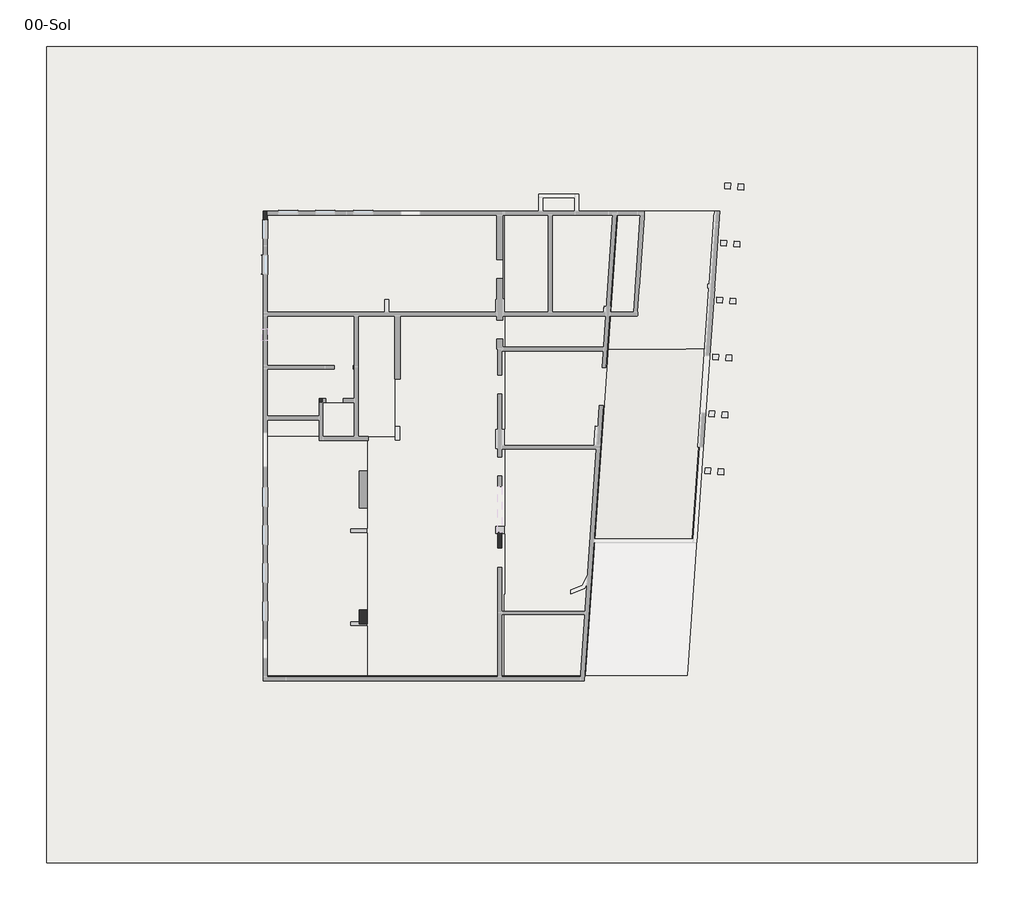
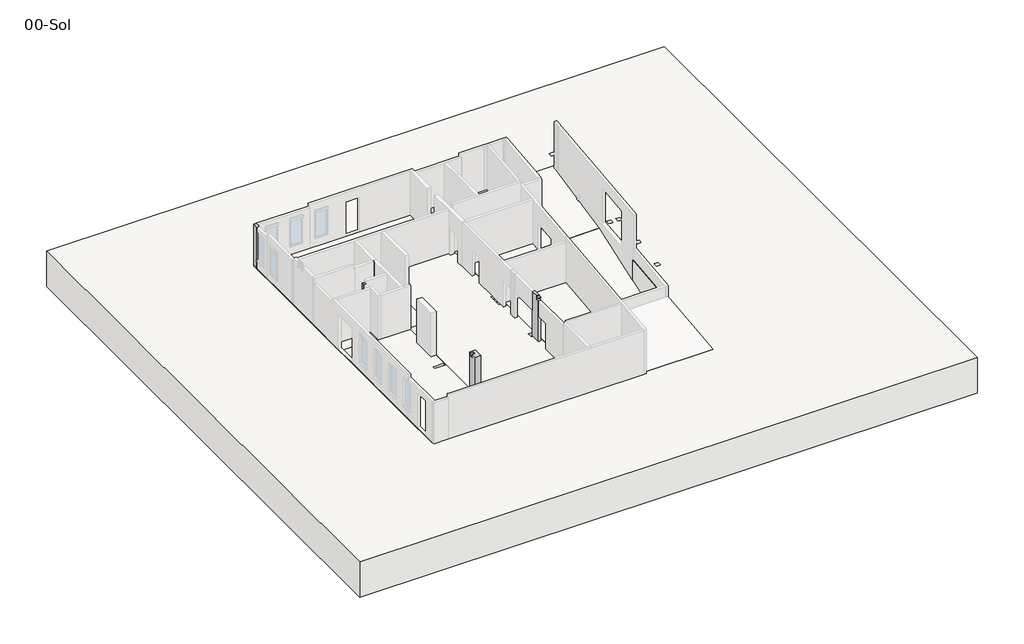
# One storey, part 3 of 4: 12 slabs, 8 columns, 8 footings.
"""IFC4 building model written with IfcOpenShell, lengths in millimetres."""

from ifc_helpers import new_model, si_unit, point, frame, frame_2d, origin, place, context, project, spatial, polyline, circle_curve, trimmed, segment, composite_curve, outline, extrude, faceted_brep, element, save
from ifc_brep_helpers import plane_surface, cylinder_surface, advanced_brep

model = new_model("IFC4")

# Units and contexts
model_context = context("Model", 3, world=origin())
ifc_project = project(units=[si_unit("LENGTHUNIT", "METRE", prefix="MILLI")], contexts=[model_context])

# Site, building, storey
site = spatial("IfcSite", under=ifc_project)
building = spatial("IfcBuilding", under=site)
storey = spatial("IfcBuildingStorey", under=building, Name="00-Sol", Elevation=0.0)

# Columns
placement = place(None, origin())
element("IfcColumn", 1, ObjectType="Poteau béton - Rectangulaire : 200x250 mm", at=placement, inside=storey, context=model_context, shape_type="Brep", body=[
    faceted_brep([(-1377.0447796, 10679.8622276, 80.0), (-1377.0447796, 10879.8622276, 80.0), (-1327.0447796, 10879.8622276, 80.0), (-1327.0447796, 10679.8622276, 80.0), (-1377.0447796, 10879.8622276, 2250.0), (-1377.0447796, 10879.8622276, 3760.0), (-1327.0447796, 10879.8622276, 3760.0), (-1377.0447796, 10679.8622276, 3760.0), (-1377.0447796, 10679.8622276, 2250.0), (-1327.0447796, 10679.8622276, 3760.0), (-1327.0447796, 10779.8622276, 3760.0)], [[[0, 1, 2, 3]], [[1, 4, 5, 6, 2]], [[7, 8, 0, 3, 9]], [[1, 0, 8, 7, 5, 4]], [[5, 7, 9, 10, 6]], [[2, 6, 10, 9, 3]]]),
])
element("IfcColumn", 2, ObjectType="Poteau béton - Rectangulaire : 200x360 mm", at=placement, inside=storey, context=model_context, shape_type="SweptSolid", body=[
    extrude(outline(polyline([(-3177.0447796, 8929.8622276), (-3177.0447796, 9129.8622276), (-2977.0447796, 9129.8622276), (-2977.0447796, 8929.8622276), (-3177.0447796, 8929.8622276)])), frame((0.0, 0.0, 80.0), z_axis=(0.0, 0.0, 1.0), x_axis=(1.0, 0.0, 0.0)), (0.0, 0.0, 1.0), 3430.0),
])
element("IfcColumn", 3, ObjectType="Poteau béton - Rectangulaire : 25x90", at=placement, inside=storey, context=model_context, shape_type="Brep", body=[
    faceted_brep([(-1537.0447796, 2289.8622276, -3690.0), (-637.0447796, 2289.8622276, -3690.0), (-637.0447796, 2039.8622276, -3690.0), (-1537.0447796, 2039.8622276, -3690.0), (-637.0447796, 2289.8622276, -3520.0), (-1537.0447796, 2289.8622276, -3520.0), (-1537.0447796, 2039.8622276, -3520.0), (-637.0447796, 2039.8622276, -3520.0)], [[[0, 1, 2, 3]], [[4, 5, 6, 7]], [[1, 0, 5, 4]], [[2, 1, 4, 7]], [[3, 2, 7, 6]], [[0, 3, 6, 5]]]),
    faceted_brep([(-1537.0447796, 2289.8622276, -150.0), (-637.0447796, 2289.8622276, -150.0), (-637.0447796, 2289.8622276, -190.0), (-637.0447796, 2289.8622276, -770.0), (-637.0447796, 2289.8622276, -3390.0), (-1537.0447796, 2289.8622276, -3390.0), (-1537.0447796, 2289.8622276, -770.0), (-637.0447796, 2209.8622276, -150.0), (-637.0447796, 2039.8622276, -150.0), (-637.0447796, 2039.8622276, -190.0), (-637.0447796, 2039.8622276, -770.0), (-637.0447796, 2039.8622276, -3390.0), (-1537.0447796, 2039.8622276, -150.0), (-1537.0447796, 2039.8622276, -770.0), (-1537.0447796, 2039.8622276, -3390.0), (-1537.0447796, 2209.8622276, -150.0)], [[[0, 1, 2, 3, 4, 5, 6]], [[1, 7, 8, 9, 10, 11, 4, 3, 2]], [[8, 12, 13, 14, 11, 10, 9]], [[12, 15, 0, 6, 5, 14, 13]], [[1, 0, 15, 12, 8, 7]], [[5, 4, 11, 14]]]),
])
element("IfcColumn", 4, ObjectType="Poteau béton - Rectangulaire : 25x90", at=placement, inside=storey, context=model_context, shape_type="Brep", body=[
    faceted_brep([(-1537.0447796, -2600.1377724, -3690.0), (-637.0447796, -2600.1377724, -3690.0), (-637.0447796, -2850.1377724, -3690.0), (-1537.0447796, -2850.1377724, -3690.0), (-637.0447796, -2600.1377724, -3520.0), (-1537.0447796, -2600.1377724, -3520.0), (-1537.0447796, -2850.1377724, -3520.0), (-637.0447796, -2850.1377724, -3520.0)], [[[0, 1, 2, 3]], [[4, 5, 6, 7]], [[1, 0, 5, 4]], [[2, 1, 4, 7]], [[3, 2, 7, 6]], [[0, 3, 6, 5]]]),
    faceted_brep([(-1537.0447796, -2600.1377724, -150.0), (-637.0447796, -2600.1377724, -150.0), (-637.0447796, -2600.1377724, -190.0), (-637.0447796, -2600.1377724, -770.0), (-637.0447796, -2600.1377724, -3390.0), (-1537.0447796, -2600.1377724, -3390.0), (-1537.0447796, -2600.1377724, -770.0), (-637.0447796, -2750.1377724, -150.0), (-637.0447796, -2850.1377724, -150.0), (-637.0447796, -2850.1377724, -190.0), (-637.0447796, -2850.1377724, -670.0), (-637.0447796, -2850.1377724, -3390.0), (-1537.0447796, -2850.1377724, -150.0), (-1537.0447796, -2850.1377724, -670.0), (-1537.0447796, -2850.1377724, -3390.0), (-1537.0447796, -2750.1377724, -150.0)], [[[0, 1, 2, 3, 4, 5, 6]], [[1, 7, 8, 9, 10, 11, 4, 3, 2]], [[8, 12, 13, 14, 11, 10, 9]], [[12, 15, 0, 6, 5, 14, 13]], [[1, 0, 15, 12, 8, 7]], [[5, 4, 11, 14]]]),
])
element("IfcColumn", 5, ObjectType="Poteau béton - Rectangulaire : 40x50", at=placement, inside=storey, context=model_context, shape_type="Brep", body=[
    faceted_brep([(6082.9552204, 2409.8622276, -3690.0), (6582.9552204, 2409.8622276, -3690.0), (6582.9552204, 2009.8622276, -3690.0), (6082.9552204, 2009.8622276, -3690.0), (6582.9552204, 2409.8622276, -3520.0), (6082.9552204, 2409.8622276, -3520.0), (6082.9552204, 2009.8622276, -3520.0), (6582.9552204, 2009.8622276, -3520.0)], [[[0, 1, 2, 3]], [[4, 5, 6, 7]], [[1, 0, 5, 4]], [[2, 1, 4, 7]], [[3, 2, 7, 6]], [[0, 3, 6, 5]]]),
    faceted_brep([(6082.9552204, 2409.8622276, -720.0), (6582.9552204, 2409.8622276, -720.0), (6582.9552204, 2409.8622276, -3390.0), (6082.9552204, 2409.8622276, -3390.0), (6582.9552204, 2247.1622276, -720.0), (6582.9552204, 2009.8622276, -720.0), (6582.9552204, 2009.8622276, -3390.0), (6082.9552204, 2009.8622276, -720.0), (6082.9552204, 2009.8622276, -3390.0), (6082.9552204, 2247.1622276, -720.0)], [[[0, 1, 2, 3]], [[1, 4, 5, 6, 2]], [[5, 7, 8, 6]], [[7, 9, 0, 3, 8]], [[1, 0, 9, 7, 5, 4]], [[3, 2, 6, 8]]]),
])
element("IfcColumn", 6, ObjectType="Poteau béton - Rectangulaire : 440x220mm", at=placement, inside=storey, context=model_context, shape_type="Brep", body=[
    faceted_brep([(-5907.0447796, 18999.8622276, 80.0), (-5907.0447796, 18799.8622276, 80.0), (-5907.0447796, 18559.8622276, 80.0), (-6107.0447796, 18559.8622276, 80.0), (-6107.0447796, 18999.8622276, 80.0), (-5907.0447796, 18999.8622276, 3510.0), (-5907.0447796, 18799.8622276, 3510.0), (-5907.0447796, 18559.8622276, 3510.0), (-5907.0447796, 18559.8622276, 3150.0), (-5907.0447796, 18559.8622276, 750.0), (-6107.0447796, 18559.8622276, 3510.0), (-6107.0447796, 18559.8622276, 3150.0), (-6107.0447796, 18559.8622276, 750.0), (-6107.0447796, 18999.8622276, 3510.0)], [[[0, 1, 2, 3, 4]], [[5, 6, 7, 8, 9, 2, 1, 0]], [[7, 10, 11, 12, 3, 2, 9, 8]], [[10, 13, 4, 3, 12, 11]], [[13, 5, 0, 4]], [[5, 13, 10, 7, 6]]]),
])
element("IfcColumn", 7, ObjectType="Poteau béton - Rectangulaire : 750X430mm", at=placement, inside=storey, context=model_context, shape_type="Brep", body=[
    faceted_brep([(-642.0447796, -2000.1377724, 80.0), (-642.0447796, -2750.1377724, 80.0), (-1072.0447796, -2750.1377724, 80.0), (-1072.0447796, -2000.1377724, 80.0), (-642.0447796, -2000.1377724, 3760.0), (-642.0447796, -2150.1377724, 3760.0), (-642.0447796, -2750.1377724, 3760.0), (-642.0447796, -2750.1377724, 3440.0), (-642.0447796, -2750.1377724, 3190.0), (-1072.0447796, -2750.1377724, 3760.0), (-1072.0447796, -2750.1377724, 3440.0), (-1072.0447796, -2340.1377724, 3760.0), (-1072.0447796, -2340.1377724, 3510.0), (-1072.0447796, -2140.1377724, 3510.0), (-1072.0447796, -2140.1377724, 3760.0), (-1072.0447796, -2000.1377724, 3760.0), (-887.0447796, -2140.1377724, 3760.0), (-887.0447796, -2340.1377724, 3760.0), (-887.0447796, -2140.1377724, 3510.0), (-887.0447796, -2340.1377724, 3510.0)], [[[0, 1, 2, 3]], [[1, 0, 4, 5, 6, 7, 8]], [[2, 1, 8, 7, 6, 9, 10]], [[3, 2, 10, 9, 11, 12, 13, 14, 15]], [[0, 3, 15, 4]], [[6, 5, 4, 15, 14, 16, 17, 11, 9]], [[18, 16, 14, 13]], [[19, 12, 11, 17]], [[19, 18, 13, 12]], [[18, 19, 17, 16]]]),
])
element("IfcColumn", 8, ObjectType="Poteau béton - Rectangulaire : 810x200mm", at=placement, inside=storey, context=model_context, shape_type="Brep", body=[
    faceted_brep([(6432.9552204, 2069.8622276, 80.0), (6432.9552204, 1259.8622276, 80.0), (6232.9552204, 1259.8622276, 80.0), (6232.9552204, 2069.8622276, 80.0), (6432.9552204, 2069.8622276, 2250.0), (6432.9552204, 2069.8622276, 3810.0), (6432.9552204, 1469.8622276, 3810.0), (6432.9552204, 1469.8622276, 3760.0), (6432.9552204, 1259.8622276, 3760.0), (6432.9552204, 1259.8622276, 3690.0), (6432.9552204, 1469.8622276, 3690.0), (6432.9552204, 1469.8622276, 3510.0), (6432.9552204, 1259.8622276, 3510.0), (6432.9552204, 1259.8622276, 2250.0), (6232.9552204, 1259.8622276, 3690.0), (6232.9552204, 1259.8622276, 3760.0), (6232.9552204, 2069.8622276, 3810.0), (6232.9552204, 2069.8622276, 2250.0), (6232.9552204, 1259.8622276, 2250.0), (6232.9552204, 1259.8622276, 3510.0), (6232.9552204, 1469.8622276, 3510.0), (6232.9552204, 1469.8622276, 3560.0), (6232.9552204, 1469.8622276, 3690.0), (6232.9552204, 1469.8622276, 3760.0), (6232.9552204, 1469.8622276, 3810.0)], [[[0, 1, 2, 3]], [[1, 0, 4, 5, 6, 7, 8, 9, 10, 11, 12, 13]], [[14, 9, 8, 15]], [[16, 17, 3, 2, 18, 19, 20, 21, 22, 14, 15, 23, 24]], [[16, 5, 4, 0, 3, 17]], [[5, 16, 24, 6]], [[11, 20, 19, 12]], [[22, 10, 9, 14]], [[20, 11, 10, 22, 21]], [[2, 1, 13, 12, 19, 18]], [[7, 23, 15, 8]], [[23, 7, 6, 24]]]),
])

# Footings
element("IfcFooting", 9, ObjectType="SF 100x40ht", at=placement, inside=storey, context=model_context, shape_type="SweptSolid", body=[
    extrude(outline(polyline([(-5127.0447796, 10279.8622276), (-5127.0447796, 11279.8622276), (97.9552204, 11279.8622276), (97.9552204, 10279.8622276), (-5127.0447796, 10279.8622276)])), frame((0.0, 0.0, -4090.0), z_axis=(0.0, 0.0, 1.0), x_axis=(1.0, 0.0, 0.0)), (0.0, 0.0, 1.0), 400.0),
])
element("IfcFooting", 10, ObjectType="SF 100x40ht", at=placement, inside=storey, context=model_context, shape_type="SweptSolid", body=[
    extrude(outline(polyline([(-3177.0447796, 7529.8622276), (-3177.0447796, 6529.8622276), (-5127.0447796, 6529.8622276), (-5127.0447796, 7529.8622276), (-3177.0447796, 7529.8622276)])), frame((0.0, 0.0, -4090.0), z_axis=(0.0, 0.0, 1.0), x_axis=(1.0, 0.0, 0.0)), (0.0, 0.0, 1.0), 400.0),
])
element("IfcFooting", 11, ObjectType="SF 100x70ht", at=placement, inside=storey, context=model_context, shape_type="SweptSolid", body=[
    extrude(outline(polyline([(5232.9552204, -1560.1377724), (5232.9552204, -560.1377724), (10072.9552204, -560.1377724), (10072.9552204, -1560.1377724), (5232.9552204, -1560.1377724)])), frame((0.0, 0.0, -4390.0), z_axis=(0.0, 0.0, 1.0), x_axis=(1.0, 0.0, 0.0)), (0.0, 0.0, 1.0), 700.0),
])
element("IfcFooting", 12, ObjectType="SF 170x40", at=placement, inside=storey, context=model_context, shape_type="SweptSolid", body=[
    extrude(outline(polyline([(-567.0447796, 14429.8622276), (-567.0447796, 12729.8622276), (-5127.0447796, 12729.8622276), (-5127.0447796, 14429.8622276), (-567.0447796, 14429.8622276)])), frame((0.0, 0.0, -4090.0), z_axis=(0.0, 0.0, 1.0), x_axis=(1.0, 0.0, 0.0)), (0.0, 0.0, 1.0), 400.0),
])
element("IfcFooting", 13, ObjectType="SF 70x40ht", at=placement, inside=storey, context=model_context, shape_type="SweptSolid", body=[
    extrude(outline(composite_curve([segment(trimmed(circle_curve(frame_2d((10072.9552204, -69.9094928)), 490.2282796), [point((10072.9552204, -560.1377724))], [point((10562.0017591, -103.9278577))], True, "CARTESIAN"), True, "CONTINUOUS"), segment(polyline([(10562.0017591, -103.9278577), (11559.5911659, -173.3207637)]), True, "CONTINUOUS"), segment(trimmed(circle_curve(frame_2d((10072.9552204, -69.9094928)), 1490.2282796), [point((11559.5911659, -173.3207637))], [point((10072.9552204, -1560.1377724))], False, "CARTESIAN"), True, "CONTINUOUS"), segment(polyline([(10072.9552204, -1560.1377724), (10072.9552204, -560.1377724)]), True, "CONTINUOUS")], self_intersect=False)), frame((0.0, 0.0, -4390.0), z_axis=(0.0, 0.0, 1.0), x_axis=(1.0, 0.0, 0.0)), (0.0, 0.0, 1.0), 700.0),
])
element("IfcFooting", 14, ObjectType="SF1 85 x 40 cm", at=placement, inside=storey, context=model_context, shape_type="Brep", body=[
    faceted_brep([(16210.7902416, -5440.1377724, -3690.0), (15624.234943, -4510.1377724, -3690.0), (-5127.0447796, -4510.1377724, -3690.0), (-5127.0447796, -5440.1377724, -3690.0), (15624.234943, -4510.1377724, -4090.0), (-797.0447796, -4510.1377724, -4090.0), (-1097.0447796, -4510.1377724, -4090.0), (-5127.0447796, -4510.1377724, -4090.0), (16210.7902416, -5440.1377724, -4090.0), (-5127.0447796, -5440.1377724, -4090.0)], [[[0, 1, 2, 3]], [[1, 4, 5, 6, 7, 2]], [[4, 8, 9, 7, 6, 5]], [[8, 0, 3, 9]], [[3, 2, 7, 9]], [[1, 0, 8, 4]]]),
])
element("IfcFooting", 15, ObjectType="SF2 90 x 40 cm", at=placement, inside=storey, context=model_context, shape_type="Brep", body=[
    faceted_brep([(-6107.0447796, 18069.8622276, -3690.0), (-6107.0447796, -5440.1377724, -3690.0), (-5127.0447796, -5440.1377724, -3690.0), (-5127.0447796, -4510.1377724, -3690.0), (-5127.0447796, 6529.8622276, -3690.0), (-5127.0447796, 7529.8622276, -3690.0), (-5127.0447796, 10279.8622276, -3690.0), (-5127.0447796, 11279.8622276, -3690.0), (-5127.0447796, 12729.8622276, -3690.0), (-5127.0447796, 14429.8622276, -3690.0), (-5127.0447796, 18069.8622276, -3690.0), (-5127.0447796, 18069.8622276, -4090.0), (-5127.0447796, -5440.1377724, -4090.0), (-5127.0447796, -4510.1377724, -4090.0), (-5127.0447796, -2875.1377724, -4090.0), (-5127.0447796, -2575.1377724, -4090.0), (-5127.0447796, 2024.8622276, -4090.0), (-5127.0447796, 2324.8622276, -4090.0), (-5127.0447796, 6529.8622276, -4090.0), (-5127.0447796, 7529.8622276, -4090.0), (-5127.0447796, 10279.8622276, -4090.0), (-5127.0447796, 11279.8622276, -4090.0), (-5127.0447796, 12729.8622276, -4090.0), (-5127.0447796, 14429.8622276, -4090.0), (-6107.0447796, 18069.8622276, -4090.0), (-6107.0447796, -5440.1377724, -4090.0)], [[[0, 1, 2, 3, 4, 5, 6, 7, 8, 9, 10]], [[11, 10, 9, 8, 7, 6, 5, 4, 3, 2, 12, 13, 14, 15, 16, 17, 18, 19, 20, 21, 22, 23]], [[24, 11, 23, 22, 21, 20, 19, 18, 17, 16, 15, 14, 13, 12, 25]], [[0, 24, 25, 1]], [[2, 1, 25, 12]], [[0, 10, 11, 24]]]),
])
element("IfcFooting", 16, ObjectType="SF6 60 x 40 cm", at=placement, inside=storey, context=model_context, shape_type="Brep", body=[
    faceted_brep([(16702.6850626, 1594.2858962, -3690.0), (16702.6850626, 1594.2858962, -4090.0), (16104.1466325, 1636.1397805, -4090.0), (16054.26843, 1639.6276041, -4090.0), (16054.26843, 1639.6276041, -3690.0), (16104.1466325, 1636.1397805, -3690.0), (16210.7902416, -5440.1377724, -3690.0), (15624.234943, -4510.1377724, -3690.0), (16210.7902416, -5440.1377724, -4090.0), (15624.234943, -4510.1377724, -4090.0)], [[[0, 1, 2, 3, 4, 5]], [[6, 0, 5, 4, 7]], [[1, 0, 6, 8]], [[3, 2, 1, 8, 9]], [[4, 3, 9, 7]], [[6, 7, 9, 8]]]),
])

# Slabs
element("IfcSlab", 17, ObjectType="Plancher Coulé en place 23 cm", at=placement, inside=storey, context=model_context, shape_type="Brep", body=[
    faceted_brep([(-6107.0447796, -2240.1377724, -150.0), (-6107.0447796, 7129.8622276, -150.0), (-1537.0447796, 7129.8622276, -150.0), (-1227.0447796, 7129.8622276, -150.0), (-637.0447796, 7129.8622276, -150.0), (-637.0447796, 6929.8622276, -150.0), (-637.0447796, 2289.8622276, -150.0), (-1537.0447796, 2289.8622276, -150.0), (-1537.0447796, 2209.8622276, -150.0), (-1537.0447796, 2039.8622276, -150.0), (-637.0447796, 2039.8622276, -150.0), (-637.0447796, -2600.1377724, -150.0), (-1537.0447796, -2600.1377724, -150.0), (-1537.0447796, -2750.1377724, -150.0), (-1537.0447796, -2850.1377724, -150.0), (-637.0447796, -2850.1377724, -150.0), (-637.0447796, -5160.1377724, -150.0), (-637.0447796, -5440.1377724, -150.0), (-6107.0447796, -5440.1377724, -150.0), (-6107.0447796, 7129.8622276, 80.0), (-6107.0447796, -2240.1377724, 80.0), (-6107.0447796, -5440.1377724, 80.0), (-5907.0447796, -5440.1377724, 80.0), (-637.0447796, -5440.1377724, 80.0), (-637.0447796, -2850.1377724, 80.0), (-1537.0447796, -2850.1377724, 80.0), (-1537.0447796, -2750.1377724, 80.0), (-1537.0447796, -2600.1377724, 80.0), (-637.0447796, -2600.1377724, 80.0), (-637.0447796, 2039.8622276, 80.0), (-1537.0447796, 2039.8622276, 80.0), (-1537.0447796, 2209.8622276, 80.0), (-1537.0447796, 2289.8622276, 80.0), (-637.0447796, 2289.8622276, 80.0), (-637.0447796, 7129.8622276, 80.0)], [[[0, 1, 2, 3, 4, 5, 6, 7, 8, 9, 10, 11, 12, 13, 14, 15, 16, 17, 18]], [[19, 20, 21, 22, 23, 24, 25, 26, 27, 28, 29, 30, 31, 32, 33, 34]], [[1, 0, 20, 19]], [[4, 3, 2, 1, 19, 34]], [[4, 34, 33, 6, 5]], [[23, 17, 16, 15, 24]], [[11, 10, 29, 28]], [[18, 17, 23, 22, 21]], [[0, 18, 21, 20]], [[32, 7, 6, 33]], [[7, 32, 31, 30, 9, 8]], [[9, 30, 29, 10]], [[27, 12, 11, 28]], [[12, 27, 26, 25, 14, 13]], [[14, 25, 24, 15]]]),
])
element("IfcSlab", 18, ObjectType="Plancher Coulé en place 27", at=placement, inside=storey, context=model_context, shape_type="Brep", body=[
    faceted_brep([(6532.9552204, -5440.1377724, -190.0), (-637.0447796, -5440.1377724, -190.0), (-637.0447796, -2850.1377724, -190.0), (-637.0447796, -2600.1377724, -190.0), (-637.0447796, 2039.8622276, -190.0), (-637.0447796, 2289.8622276, -190.0), (-637.0447796, 7129.8622276, -190.0), (812.9552204, 7129.8622276, -190.0), (812.9552204, 6929.8622276, -190.0), (1082.9552204, 6929.8622276, -190.0), (1082.9552204, 7679.8622276, -190.0), (812.9552204, 7679.8622276, -190.0), (812.9552204, 13479.8622276, -190.0), (507.9552204, 13479.8622276, -190.0), (507.9552204, 14379.8622276, -190.0), (257.9552204, 14379.8622276, -190.0), (257.9552204, 13479.8622276, -190.0), (255.2552204, 13479.8622276, -190.0), (-6107.0447796, 13479.8622276, -190.0), (-6107.0447796, 18999.8622276, -190.0), (6482.9552204, 18999.8622276, -190.0), (6482.9552204, 14379.8622276, -190.0), (6182.9552204, 14379.8622276, -190.0), (6082.9552204, 14379.8622276, -190.0), (6082.9552204, 13479.8622276, -190.0), (6580.6552204, 13479.8622276, -190.0), (6582.9552204, 13479.8622276, -190.0), (6582.9552204, 13439.8622276, -190.0), (6582.9552204, 7529.8622276, -190.0), (6082.9552204, 7529.8622276, -190.0), (6082.9552204, 6459.8622276, -190.0), (6582.9552204, 6459.8622276, -190.0), (6582.9552204, 2409.8622276, -190.0), (6082.9552204, 2409.8622276, -190.0), (6082.9552204, 2009.8622276, -190.0), (6582.9552204, 2009.8622276, -190.0), (6582.9552204, -960.1377724, -190.0), (6582.9552204, -1160.1377724, -190.0), (6532.9552204, -1160.1377724, -190.0), (6532.9552204, -5160.1377724, -190.0), (-637.0447796, -5440.1377724, 80.0), (6232.9552204, -5440.1377724, 80.0), (6432.9552204, -5440.1377724, 80.0), (6532.9552204, -5440.1377724, 80.0), (6532.9552204, -1160.1377724, 80.0), (6582.9552204, -1160.1377724, 80.0), (6582.9552204, 2009.8622276, 80.0), (6082.9552204, 2009.8622276, 80.0), (6082.9552204, 2247.1622276, 80.0), (6082.9552204, 2409.8622276, 80.0), (6582.9552204, 2409.8622276, 80.0), (6582.9552204, 6459.8622276, 80.0), (6082.9552204, 6459.8622276, 80.0), (6082.9552204, 6979.8622276, 80.0), (6082.9552204, 7529.8622276, 80.0), (6582.9552204, 7529.8622276, 80.0), (6582.9552204, 13439.8622276, 80.0), (6582.9552204, 13479.8622276, 80.0), (6580.6552204, 13479.8622276, 80.0), (6082.9552204, 13479.8622276, 80.0), (6082.9552204, 14379.8622276, 80.0), (6482.9552204, 14379.8622276, 80.0), (6482.9552204, 18999.8622276, 80.0), (-5907.0447796, 18999.8622276, 80.0), (-6107.0447796, 18999.8622276, 80.0), (-6107.0447796, 18559.8622276, 80.0), (-6107.0447796, 13479.8622276, 80.0), (257.9552204, 13479.8622276, 80.0), (257.9552204, 14379.8622276, 80.0), (507.9552204, 14379.8622276, 80.0), (507.9552204, 13479.8622276, 80.0), (812.9552204, 13479.8622276, 80.0), (812.9552204, 7679.8622276, 80.0), (1082.9552204, 7679.8622276, 80.0), (1082.9552204, 6929.8622276, 80.0), (812.9552204, 6929.8622276, 80.0), (812.9552204, 7129.8622276, 80.0), (-637.0447796, 7129.8622276, 80.0), (-637.0447796, 2289.8622276, 80.0), (-637.0447796, 2209.8622276, 80.0), (-637.0447796, 2039.8622276, 80.0), (-637.0447796, -2600.1377724, 80.0), (-637.0447796, -2750.1377724, 80.0), (-637.0447796, -2850.1377724, 80.0), (812.9552204, 7679.8622276, -150.0), (1082.9552204, 7679.8622276, -150.0), (812.9552204, 6929.8622276, -150.0), (1082.9552204, 6929.8622276, -150.0)], [[[0, 1, 2, 3, 4, 5, 6, 7, 8, 9, 10, 11, 12, 13, 14, 15, 16, 17, 18, 19, 20, 21, 22, 23, 24, 25, 26, 27, 28, 29, 30, 31, 32, 33, 34, 35, 36, 37, 38, 39]], [[40, 41, 42, 43, 44, 45, 46, 47, 48, 49, 50, 51, 52, 53, 54, 55, 56, 57, 58, 59, 60, 61, 62, 63, 64, 65, 66, 67, 68, 69, 70, 71, 72, 73, 74, 75, 76, 77, 78, 79, 80, 81, 82, 83]], [[1, 0, 43, 42, 41, 40]], [[1, 40, 83, 82, 81, 80, 79, 78, 77, 6, 5, 4, 3, 2]], [[7, 6, 77, 76]], [[71, 12, 11, 84, 72]], [[12, 71, 70, 13]], [[66, 18, 17, 16, 67]], [[19, 18, 66, 65, 64]], [[20, 19, 64, 63, 62]], [[20, 62, 61, 21]], [[24, 59, 58, 57, 26, 25]], [[27, 26, 57, 56]], [[27, 56, 55, 28]], [[45, 37, 36, 35, 46]], [[32, 31, 51, 50]], [[38, 37, 45, 44]], [[0, 39, 38, 44, 43]], [[14, 69, 68, 15]], [[15, 68, 67, 16]], [[69, 14, 13, 70]], [[60, 23, 22, 21, 61]], [[23, 60, 59, 24]], [[54, 29, 28, 55]], [[29, 54, 53, 52, 30]], [[30, 52, 51, 31]], [[49, 33, 32, 50]], [[33, 49, 48, 47, 34]], [[34, 47, 46, 35]], [[10, 85, 73, 72, 84, 11]], [[75, 86, 8, 7, 76]], [[8, 86, 75, 74, 87, 9]], [[73, 85, 10, 9, 87, 74]]]),
])
element("IfcSlab", 19, ObjectType="Plancher Coulé en place 23 cm", at=placement, inside=storey, context=model_context, shape_type="SweptSolid", body=[
    extrude(outline(polyline([(812.9552204, 13679.8622276), (812.9552204, 7129.8622276), (-1327.0447796, 7129.8622276), (-1327.0447796, 8929.8622276), (-2977.0447796, 8929.8622276), (-2977.0447796, 7129.8622276), (-3177.0447796, 7129.8622276), (-6107.0447796, 7129.8622276), (-6107.0447796, 13679.8622276), (-6007.0447796, 13679.8622276), (257.9552204, 13679.8622276), (257.9552204, 13479.8622276), (507.9552204, 13479.8622276), (507.9552204, 13679.8622276), (812.9552204, 13679.8622276)])), frame((0.0, 0.0, -150.0), z_axis=(0.0, 0.0, 1.0), x_axis=(1.0, 0.0, 0.0)), (0.0, 0.0, 1.0), 230.0),
])
element("IfcSlab", 20, ObjectType="Plancher Coulé en place 23 cm", at=placement, inside=storey, context=model_context, shape_type="Brep", body=[
    faceted_brep([(6582.9552204, 18999.8622276, -150.0), (12542.9552204, 18999.8622276, -150.0), (10833.9216137, -5440.4570037, -150.0), (10805.6552204, -5440.4570037, -150.0), (6533.9216137, -5440.4570037, -150.0), (6533.9216137, -5440.1377724, -150.0), (6533.9216137, -1160.1377724, -150.0), (6582.9552204, -1160.1377724, -150.0), (6582.9552204, 1059.5429963, -150.0), (6582.9552204, 2009.8622276, -150.0), (6582.9552204, 2409.8622276, -150.0), (6582.9552204, 6459.8622276, -150.0), (6582.9552204, 7529.8622276, -150.0), (6582.9552204, 11729.8622276, -150.0), (6582.9552204, 13479.8622276, -150.0), (6582.9552204, 13579.8622276, -150.0), (6582.9552204, 13879.8622276, -150.0), (6582.9552204, 14379.8622276, -150.0), (12169.0026566, 13962.9716739, -150.0), (11824.6797624, 13987.0490762, -150.0), (11817.1845278, 13879.8622276, -150.0), (11803.6869502, 13686.837875, -150.0), (11789.8015255, 13488.267051, -150.0), (11810.239695, 13486.837875, -150.0), (12109.9423399, 13465.8806245, -150.0), (12134.1244197, 13464.1896488, -150.0), (11703.6160138, 7655.1434441, -150.0), (11354.4685962, 7679.5582099, -150.0), (11353.5032221, 7665.752716, -150.0), (11270.7608333, 6482.4814291, -150.0), (11620.3445267, 6458.0361559, -150.0), (11702.6556712, 7641.3376002, -150.0), (12542.9552204, 18999.8622276, 80.0), (12042.9552204, 18999.8622276, 80.0), (6582.9552204, 18999.8622276, 80.0), (6582.9552204, 14379.8622276, 80.0), (6582.9552204, 13879.8622276, 80.0), (6582.9552204, 13579.8622276, 80.0), (6582.9552204, 13479.8622276, 80.0), (6582.9552204, 11729.8622276, 80.0), (6582.9552204, 7529.8622276, 80.0), (6582.9552204, 6979.8622276, 80.0), (6582.9552204, 6459.8622276, 80.0), (6582.9552204, 2409.8622276, 80.0), (6582.9552204, 2247.1622276, 80.0), (6582.9552204, 2009.8622276, 80.0), (6582.9552204, 1059.5429963, 80.0), (6582.9552204, -1160.1377724, 80.0), (6533.9216137, -1160.1377724, 80.0), (6533.9216137, -5440.1377724, 80.0), (6533.9216137, -5440.4570037, 80.0), (10587.3940444, -5440.4570037, 80.0), (10787.882424, -5440.4570037, 80.0), (10805.6552204, -5440.4570037, 80.0), (10833.9216137, -5440.4570037, 80.0), (11824.6797624, 13987.0490762, 80.0), (12169.0026566, 13962.9716739, 80.0), (12134.1244197, 13464.1896488, 80.0), (12109.9423399, 13465.8806245, 80.0), (11810.239695, 13486.837875, 80.0), (11789.8015255, 13488.267051, 80.0), (11803.6869502, 13686.837875, 80.0), (11817.1845278, 13879.8622276, 80.0), (11354.4685962, 7679.5582099, 80.0), (11703.6160138, 7655.1434441, 80.0), (11702.6556712, 7641.3376002, 80.0), (11620.3445267, 6458.0361559, 80.0), (11270.7608333, 6482.4814291, 80.0), (11353.5032221, 7665.752716, 80.0)], [[[0, 1, 2, 3, 4, 5, 6, 7, 8, 9, 10, 11, 12, 13, 14, 15, 16, 17], [18, 19, 20, 21, 22, 23, 24, 25], [26, 27, 28, 29, 30, 31]], [[32, 33, 34, 35, 36, 37, 38, 39, 40, 41, 42, 43, 44, 45, 46, 47, 48, 49, 50, 51, 52, 53, 54], [55, 56, 57, 58, 59, 60, 61, 62], [63, 64, 65, 66, 67, 68]], [[34, 0, 17, 16, 15, 14, 13, 39, 38, 37, 36, 35]], [[1, 0, 34, 33, 32]], [[2, 1, 32, 54]], [[4, 3, 2, 54, 53, 52, 51, 50]], [[6, 5, 4, 50, 49, 48]], [[7, 6, 48, 47]], [[8, 7, 47, 46]], [[8, 46, 45, 44, 43, 42, 41, 40, 39, 13, 12, 11, 10, 9]], [[18, 56, 55, 19]], [[19, 55, 62, 61, 60, 22, 21, 20]], [[22, 60, 59, 58, 57, 25, 24, 23]], [[56, 18, 25, 57]], [[26, 64, 63, 27]], [[27, 63, 68, 67, 29, 28]], [[29, 67, 66, 30]], [[64, 26, 31, 30, 66, 65]]]),
])
element("IfcSlab", 21, ObjectType="Dallage 13 cm", at=placement, inside=storey, context=model_context, shape_type="AdvancedBrep", body=[
    advanced_brep(
    [(17599.4894487, 18719.8622276, -3520.0), (17349.6392468, 15146.837875, -3520.0), (17336.8332423, 14963.7034783, -3520.0), (17335.6538844, 14946.837875, -3520.0), (16757.5706329, 6679.8622276, -3520.0), (11635.4177076, 6679.8622276, -3520.0), (11434.929328, 6679.8622276, -3520.0), (11420.3954353, 6472.0178785, -3520.0), (10956.9583786, -155.4408, -3520.0), (10094.0265244, -960.1377724, -3520.0), (5232.9552204, -960.1377724, -3520.0), (5232.9552204, -5160.1377724, -3520.0), (-5827.0447796, -5160.1377724, -3520.0), (-5827.0447796, 18719.8622276, -3520.0), (507.9552204, 14379.8622276, -3520.0), (257.9552204, 14379.8622276, -3520.0), (257.9552204, 13479.8622276, -3520.0), (507.9552204, 13479.8622276, -3520.0), (-2977.0447796, 7129.8622276, -3520.0), (-1327.0447796, 7129.8622276, -3520.0), (-1327.0447796, 8929.8622276, -3520.0), (-2977.0447796, 8929.8622276, -3520.0), (16757.5706329, 6679.8622276, -3390.0), (17335.6538844, 14946.837875, -3390.0), (17336.8332423, 14963.7034783, -3390.0), (17349.6392468, 15146.837875, -3390.0), (17599.4894487, 18719.8622276, -3390.0), (10289.8015255, 18719.8622276, -3390.0), (8589.8015255, 18719.8622276, -3390.0), (-5827.0447796, 18719.8622276, -3390.0), (-5827.0447796, -5160.1377724, -3390.0), (5232.9552204, -5160.1377724, -3390.0), (5232.9552204, -960.1377724, -3390.0), (10094.0265244, -960.1377724, -3390.0), (10956.9583786, -155.4408, -3390.0), (11420.3954353, 6472.0178785, -3390.0), (11434.929328, 6679.8622276, -3390.0), (11635.4177076, 6679.8622276, -3390.0), (257.9552204, 14379.8622276, -3390.0), (507.9552204, 14379.8622276, -3390.0), (507.9552204, 13479.8622276, -3390.0), (257.9552204, 13479.8622276, -3390.0), (-1327.0447796, 7129.8622276, -3390.0), (-2977.0447796, 7129.8622276, -3390.0), (-2977.0447796, 8929.8622276, -3390.0), (-1327.0447796, 8929.8622276, -3390.0)],
    [
        (0, 1),
        (1, 2),
        (2, 3),
        (3, 4),
        (4, 5),
        (5, 6),
        (6, 7),
        (7, 8),
        (8, 9, circle_curve(frame((10094.0265244, -95.0987265, -3520.0), z_axis=(0.0, 0.0, -1.0), x_axis=(1.0, 0.0, 0.0)), 865.0390459)),
        (9, 10),
        (10, 11),
        (11, 12),
        (12, 13),
        (13, 0),
        (14, 15),
        (15, 16),
        (16, 17),
        (17, 14),
        (18, 19),
        (19, 20),
        (20, 21),
        (21, 18),
        (22, 23),
        (23, 24),
        (24, 25),
        (25, 26),
        (26, 27),
        (27, 28),
        (28, 29),
        (29, 30),
        (30, 31),
        (31, 32),
        (32, 33),
        (33, 34, circle_curve(frame((10094.0265244, -95.0987265, -3390.0), z_axis=(0.0, 0.0, 1.0), x_axis=(1.0, 0.0, 0.0)), 865.0390459)),
        (34, 35),
        (35, 36),
        (36, 37),
        (37, 22),
        (38, 39),
        (39, 40),
        (40, 41),
        (41, 38),
        (42, 43),
        (43, 44),
        (44, 45),
        (45, 42),
        (0, 26),
        (22, 4),
        (36, 6),
        (34, 8),
        (33, 9),
        (32, 10),
        (31, 11),
        (30, 12),
        (29, 13),
        (14, 39),
        (38, 15),
        (41, 16),
        (40, 17),
        (18, 43),
        (42, 19),
        (45, 20),
        (44, 21),
    ],
    [
        plane_surface(frame((16757.5706329, 6679.8622276, -3520.0), z_axis=(0.0, 0.0, -1.0000000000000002), x_axis=(-0.06975647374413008, -0.997564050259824, 0.0))),
        plane_surface(frame((16757.5706329, 6679.8622276, -3390.0), z_axis=(0.0, 0.0, 1.0000000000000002), x_axis=(0.06975647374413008, 0.997564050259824, 0.0))),
        plane_surface(frame((17599.4894487, 18719.8622276, -3520.0), z_axis=(0.997564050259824, -0.06975647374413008, 0.0), x_axis=(0.0, 0.0, 1.0))),
        plane_surface(frame((16757.5706329, 6679.8622276, -3520.0), z_axis=(0.0, -1.0, 0.0), x_axis=(0.0, 0.0, 1.0))),
        plane_surface(frame((11434.929328, 6679.8622276, -3520.0), z_axis=(0.997564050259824, -0.06975647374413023, 0.0), x_axis=(0.0, 0.0, 1.0))),
        cylinder_surface(frame((10094.0265244, -95.0987265, -3390.0), z_axis=(0.0, 0.0, -1.0), x_axis=(1.0, 0.0, 0.0)), 865.0390459),
        plane_surface(frame((10094.0265244, -960.1377724, -3520.0), z_axis=(0.0, -1.0, 0.0), x_axis=(0.0, 0.0, 1.0))),
        plane_surface(frame((5232.9552204, -960.1377724, -3520.0), z_axis=(1.0, 0.0, 0.0), x_axis=(0.0, 0.0, 1.0))),
        plane_surface(frame((5232.9552204, -5160.1377724, -3520.0), z_axis=(0.0, -1.0, 0.0), x_axis=(0.0, 0.0, 1.0))),
        plane_surface(frame((-5827.0447796, -5160.1377724, -3520.0), z_axis=(-1.0, 0.0, 0.0), x_axis=(0.0, 0.0, 1.0))),
        plane_surface(frame((-5827.0447796, 18719.8622276, -3520.0), z_axis=(0.0, 1.0, 0.0), x_axis=(0.0, 0.0, 1.0))),
        plane_surface(frame((507.9552204, 14379.8622276, 10944.8), z_axis=(0.0, -1.0, 0.0), x_axis=(0.0, 0.0, -1.0))),
        plane_surface(frame((257.9552204, 14379.8622276, 10944.8), z_axis=(1.0, 0.0, 0.0), x_axis=(0.0, 0.0, -1.0))),
        plane_surface(frame((257.9552204, 13479.8622276, 10944.8), z_axis=(0.0, 1.0, 0.0), x_axis=(0.0, 0.0, -1.0))),
        plane_surface(frame((507.9552204, 13479.8622276, 10944.8), z_axis=(-1.0, 0.0, 0.0), x_axis=(0.0, 0.0, -1.0))),
        plane_surface(frame((-2977.0447796, 7129.8622276, 84584.8), z_axis=(0.0, 1.0, 0.0), x_axis=(0.0, 0.0, -1.0))),
        plane_surface(frame((-1327.0447796, 7129.8622276, 84584.8), z_axis=(-1.0, 0.0, 0.0), x_axis=(0.0, 0.0, -1.0))),
        plane_surface(frame((-1327.0447796, 8929.8622276, 84584.8), z_axis=(0.0, -1.0, 0.0), x_axis=(0.0, 0.0, -1.0))),
        plane_surface(frame((-2977.0447796, 8929.8622276, 84584.8), z_axis=(1.0, 0.0, 0.0), x_axis=(0.0, 0.0, -1.0))),
    ],
    [
        (0, [[1, 2, 3, 4, 5, 6, 7, 8, 9, 10, 11, 12, 13, 14], [15, 16, 17, 18], [19, 20, 21, 22]]),
        (1, [[23, 24, 25, 26, 27, 28, 29, 30, 31, 32, 33, 34, 35, 36, 37, 38], [39, 40, 41, 42], [43, 44, 45, 46]]),
        (2, [[-4, -3, -2, -1, 47, -26, -25, -24, -23, 48]]),
        (3, [[-6, -5, -48, -38, -37, 49]]),
        (4, [[-8, -7, -49, -36, -35, 50]]),
        (5, [[-9, -50, -34, 51]]),
        (6, [[-10, -51, -33, 52]]),
        (7, [[-11, -52, -32, 53]]),
        (8, [[-12, -53, -31, 54]]),
        (9, [[-13, -54, -30, 55]]),
        (10, [[-14, -55, -29, -28, -27, -47]]),
        (11, [[56, -39, 57, -15]]),
        (12, [[-57, -42, 58, -16]]),
        (13, [[-58, -41, 59, -17]]),
        (14, [[-56, -18, -59, -40]]),
        (15, [[60, -43, 61, -19]]),
        (16, [[-61, -46, 62, -20]]),
        (17, [[-62, -45, 63, -21]]),
        (18, [[-60, -22, -63, -44]]),
    ],
),
])
element("IfcSlab", 22, ObjectType="Plancher Coulé en place 23 cm", at=placement, inside=storey, context=model_context, shape_type="Brep", body=[
    faceted_brep([(17350.5167973, 15159.3874317, -482.910715), (17349.6392468, 15146.837875, -484.0327524), (17336.8332423, 14963.7034783, -500.4065293), (17335.6538844, 14946.837875, -501.9144581), (17110.7010333, 11729.8622276, -789.539516), (12034.5872976, 11729.8622276, -821.1212228), (12156.9592185, 13479.8622276, -664.6562985), (13576.9592185, 13479.8622276, -655.8215824), (13962.9552204, 18999.8622276, -162.2865067), (17619.0689561, 18999.8622276, -139.539516), (17350.5167973, 15159.3874317, -251.9977037), (17619.0689561, 18999.8622276, 91.3734954), (13962.9552204, 18999.8622276, 68.6265046), (13576.9592185, 13479.8622276, -424.908571), (12156.9592185, 13479.8622276, -433.7432871), (12034.5872976, 11729.8622276, -590.2082115), (17110.7010333, 11729.8622276, -558.6265046), (17335.6538844, 14946.837875, -271.0014467), (17336.8332423, 14963.7034783, -269.493518), (17349.6392468, 15146.837875, -253.1197411)], [[[0, 1, 2, 3, 4, 5, 6, 7, 8, 9]], [[10, 11, 12, 13, 14, 15, 16, 17, 18, 19]], [[4, 3, 2, 1, 0, 10, 19, 18, 17, 16]], [[5, 4, 16, 15]], [[6, 5, 15, 14]], [[7, 6, 14, 13]], [[8, 7, 13, 12]], [[9, 8, 12, 11]], [[0, 9, 11, 10]]]),
])
element("IfcSlab", 23, ObjectType="Plancher Coulé en place 23 cm", at=placement, inside=storey, context=model_context, shape_type="Brep", body=[
    faceted_brep([(16213.6046627, -1815.9929192, -3705.25554), (10782.2067403, -1436.1925781, -3705.25554), (11217.8413608, 49.8511684, -3380.0097998), (12034.2786665, 11725.4485968, -863.6952158), (17110.3924021, 11725.4485968, -787.5675568), (17160.514497, 11725.4485968, -786.8158641), (16799.7892952, 6566.837875, -1898.5951518), (16213.6046627, -1815.9929192, -3470.0), (16799.7892952, 6566.837875, -1663.3396118), (17160.514497, 11725.4485968, -551.5603241), (17110.3924021, 11725.4485968, -552.3120168), (12034.2786665, 11725.4485968, -628.4396759), (11217.8413608, 49.8511684, -3144.7542598), (10782.2067403, -1436.1925781, -3470.0)], [[[0, 1, 2, 3, 4, 5, 6]], [[7, 8, 9, 10, 11, 12, 13]], [[1, 0, 7, 13]], [[2, 1, 13, 12]], [[3, 2, 12, 11]], [[5, 4, 3, 11, 10, 9]], [[0, 6, 5, 9, 8, 7]]]),
])
element("IfcSlab", 24, ObjectType="Base rectangulaire : 300x240x70ht", at=placement, inside=storey, context=model_context, shape_type="SweptSolid", body=[
    extrude(outline(polyline([(7532.9552204, 3709.8622276), (7532.9552204, 709.8622276), (5132.9552204, 709.8622276), (5132.9552204, 3709.8622276), (7532.9552204, 3709.8622276)])), frame((0.0, 0.0, -4390.0), z_axis=(0.0, 0.0, 1.0), x_axis=(1.0, 0.0, 0.0)), (0.0, 0.0, 1.0), 700.0),
    extrude(outline(polyline([(7532.9552204, 3709.8622276), (7532.9552204, 709.8622276), (5132.9552204, 709.8622276), (5132.9552204, 3709.8622276), (7532.9552204, 3709.8622276)])), frame((0.0, 0.0, -4390.0), z_axis=(0.0, 0.0, 1.0), x_axis=(1.0, 0.0, 0.0)), (0.0, 0.0, 1.0), 700.0),
])
element("IfcSlab", 25, ObjectType="Base rectangulaire : 310x245x60ht", at=placement, inside=storey, context=model_context, shape_type="SweptSolid", body=[
    extrude(outline(polyline([(-2637.0447796, 3389.8622276), (462.9552204, 3389.8622276), (462.9552204, 939.8622276), (-2637.0447796, 939.8622276), (-2637.0447796, 3389.8622276)])), frame((0.0, 0.0, -4290.0), z_axis=(0.0, 0.0, 1.0), x_axis=(1.0, 0.0, 0.0)), (0.0, 0.0, 1.0), 600.0),
    extrude(outline(polyline([(-2637.0447796, 3389.8622276), (462.9552204, 3389.8622276), (462.9552204, 939.8622276), (-2637.0447796, 939.8622276), (-2637.0447796, 3389.8622276)])), frame((0.0, 0.0, -4290.0), z_axis=(0.0, 0.0, 1.0), x_axis=(1.0, 0.0, 0.0)), (0.0, 0.0, 1.0), 600.0),
])
element("IfcSlab", 26, ObjectType="Base rectangulaire : 350x240x70ht", at=placement, inside=storey, context=model_context, shape_type="SweptSolid", body=[
    extrude(outline(polyline([(-2837.0447796, -1525.1377724), (662.9552204, -1525.1377724), (662.9552204, -3925.1377724), (-2837.0447796, -3925.1377724), (-2837.0447796, -1525.1377724)])), frame((0.0, 0.0, -4390.0), z_axis=(0.0, 0.0, 1.0), x_axis=(1.0, 0.0, 0.0)), (0.0, 0.0, 1.0), 700.0),
    extrude(outline(polyline([(-2837.0447796, -1525.1377724), (662.9552204, -1525.1377724), (662.9552204, -3925.1377724), (-2837.0447796, -3925.1377724), (-2837.0447796, -1525.1377724)])), frame((0.0, 0.0, -4390.0), z_axis=(0.0, 0.0, 1.0), x_axis=(1.0, 0.0, 0.0)), (0.0, 0.0, 1.0), 700.0),
])
element("IfcSlab", 27, ObjectType="Radier 40cm", at=placement, inside=storey, context=model_context, shape_type="SweptSolid", body=[
    extrude(outline(polyline([(-427.0447796, 9779.8622276), (-427.0447796, 6129.8622276), (-4277.0447796, 6129.8622276), (-4277.0447796, 9779.8622276), (-427.0447796, 9779.8622276)])), frame((0.0, 0.0, -5290.0), z_axis=(0.0, 0.0, 1.0), x_axis=(1.0, 0.0, 0.0)), (0.0, 0.0, 1.0), 400.0),
])
element("IfcSlab", 28, ObjectType="Sol", at=placement, inside=storey, context=model_context, shape_type="SweptSolid", body=[
    extrude(outline(polyline([(31476.7779415, 27668.847852), (31476.7779415, -15331.152148), (-17523.2220585, -15331.152148), (-17523.2220585, 27668.847852), (31476.7779415, 27668.847852)]), holes=[polyline([(507.9552204, 14379.8622276), (257.9552204, 14379.8622276), (257.9552204, 13479.8622276), (507.9552204, 13479.8622276), (507.9552204, 14379.8622276)]), polyline([(6582.9552204, 14379.8622276), (6082.9552204, 14379.8622276), (6082.9552204, 13479.8622276), (6582.9552204, 13479.8622276), (6582.9552204, 14379.8622276)]), polyline([(6582.9552204, 7529.8622276), (6082.9552204, 7529.8622276), (6082.9552204, 6459.8622276), (6582.9552204, 6459.8622276), (6582.9552204, 7529.8622276)]), polyline([(6582.9552204, 2409.8622276), (6082.9552204, 2409.8622276), (6082.9552204, 2009.8622276), (6582.9552204, 2009.8622276), (6582.9552204, 2409.8622276)]), polyline([(-637.0447796, 2289.8622276), (-1537.0447796, 2289.8622276), (-1537.0447796, 2039.8622276), (-637.0447796, 2039.8622276), (-637.0447796, 2289.8622276)]), polyline([(-637.0447796, -2600.1377724), (-1537.0447796, -2600.1377724), (-1537.0447796, -2850.1377724), (-637.0447796, -2850.1377724), (-637.0447796, -2600.1377724)]), polyline([(12169.0026566, 13962.9716739), (11824.6797624, 13987.0490762), (11789.8015255, 13488.267051), (12134.1244197, 13464.1896488), (12169.0026566, 13962.9716739)]), polyline([(11703.6160138, 7655.1434441), (11354.4685962, 7679.5582099), (11270.7608333, 6482.4814291), (11620.3445267, 6458.0361559), (11703.6160138, 7655.1434441)]), polyline([(1082.9552204, 7679.8622276), (812.9552204, 7679.8622276), (812.9552204, 6929.8622276), (1082.9552204, 6929.8622276), (1082.9552204, 7679.8622276)]), polyline([(-1327.0447796, 7129.8622276), (-1327.0447796, 8929.8622276), (-2977.0447796, 8929.8622276), (-2977.0447796, 7129.8622276), (-1327.0447796, 7129.8622276)]), polyline([(13560.9445809, 13479.8622276), (12156.9592185, 13479.8622276), (11340.4891122, 1742.3233895), (16440.4891122, 1742.3233895), (17638.6202014, 18966.6039651), (13944.6149386, 18966.6039651), (13560.9445809, 13479.8622276)])]), frame((0.0, 0.0, -3000.0), z_axis=(0.0, 0.0, 1.0), x_axis=(1.0, 0.0, 0.0)), (0.0, 0.0, 1.0), 3000.0),
])

save(model, "model.ifc")
